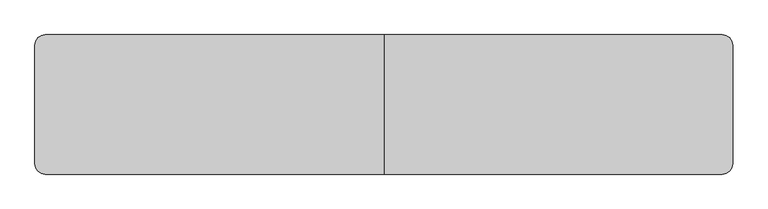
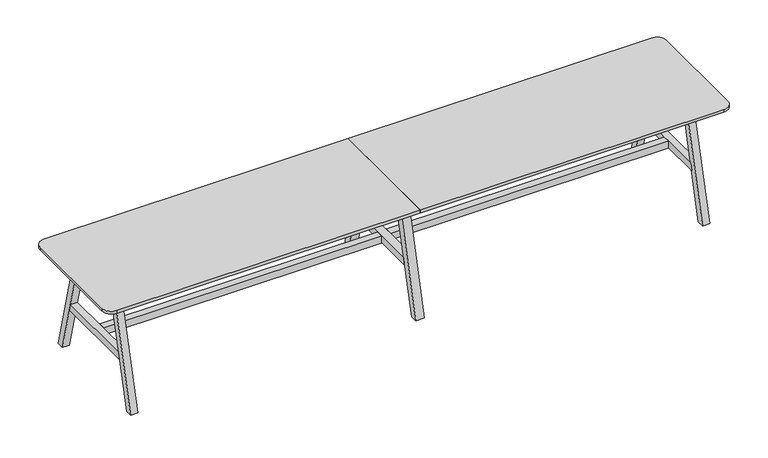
"""IFC4 building model written with IfcOpenShell, lengths in millimetres: furniture geometry, BDG_BossDesign_Tbls_AgentTables6Legs : AGE-DT-6L-4000-800-3D."""

from ifc_helpers import new_model, si_unit, point, frame, frame_2d, origin, place, context, project, spatial, polyline, circle_curve, trimmed, segment, composite_curve, outline, extrude, source, transform, mapped, element, save


def furniture_5c22946d(model_context):
    return source(origin(), model_context, "Body", "SweptSolid", [
        extrude(outline(polyline([(400.0, 0.0), (354.9999949, 0.0), (185.5, 660.0), (230.5000051, 660.0), (400.0, 0.0)])), frame((-27.5, 0.0, 0.0), z_axis=(1.0, 0.0, 0.0), x_axis=(0.0, 1.0, 0.0)), (0.0, 0.0, 1.0), 55.0),
        extrude(outline(polyline([(-400.0, 0.0), (-230.5000051, 660.0), (-185.5, 660.0), (-354.9999949, 0.0), (-400.0, 0.0)])), frame((-27.5, 0.0, 0.0), z_axis=(1.0, 0.0, 0.0), x_axis=(0.0, 1.0, 0.0)), (0.0, 0.0, 1.0), 55.0),
        extrude(outline(polyline([(277.9545427, 300.0), (-277.9545427, 300.0), (-266.3977249, 345.0), (266.3977249, 345.0), (277.9545427, 300.0)])), frame((-27.5, 0.0, 0.0), z_axis=(1.0, 0.0, 0.0), x_axis=(0.0, 1.0, 0.0)), (0.0, 0.0, 1.0), 55.0),
        extrude(outline(composite_curve([segment(polyline([(0.0, 400.0), (0.0, -400.0), (-1940.0, -400.0)]), True, "CONTINUOUS"), segment(trimmed(circle_curve(frame_2d((-1940.0, -340.0)), 60.0), [point((-1940.0, -400.0))], [point((-2000.0, -340.0))], False, "CARTESIAN"), True, "CONTINUOUS"), segment(polyline([(-2000.0, -340.0), (-2000.0, 340.0)]), True, "CONTINUOUS"), segment(trimmed(circle_curve(frame_2d((-1940.0, 340.0)), 60.0), [point((-2000.0, 340.0))], [point((-1940.0, 400.0))], False, "CARTESIAN"), True, "CONTINUOUS"), segment(polyline([(-1940.0, 400.0), (0.0, 400.0)]), True, "CONTINUOUS")], self_intersect=False)), frame((0.0, 0.0, 722.0), z_axis=(0.0, 0.0, 1.0), x_axis=(1.0, 0.0, 0.0)), (0.0, 0.0, 1.0), 18.0),
        extrude(outline(polyline([(-266.3977249, 345.0), (266.3977249, 345.0), (277.9545427, 300.0), (-277.9545427, 300.0), (-266.3977249, 345.0)])), frame((1805.0, 0.0, 0.0), z_axis=(1.0, 0.0, 0.0), x_axis=(0.0, 1.0, 0.0)), (0.0, 0.0, 1.0), 45.0),
        extrude(outline(polyline([(400.0, 0.0), (354.9999949, 0.0), (185.5, 660.0), (230.5000051, 660.0), (400.0, 0.0)])), frame((-1850.0, 0.0, 0.0), z_axis=(1.0, 0.0, 0.0), x_axis=(0.0, 1.0, 0.0)), (0.0, 0.0, 1.0), 45.0),
        extrude(outline(polyline([(-400.0, 0.0), (-230.5000051, 660.0), (-185.5, 660.0), (-354.9999949, 0.0), (-400.0, 0.0)])), frame((-1850.0, 0.0, 0.0), z_axis=(1.0, 0.0, 0.0), x_axis=(0.0, 1.0, 0.0)), (0.0, 0.0, 1.0), 45.0),
        extrude(outline(polyline([(-266.3977249, 345.0), (266.3977249, 345.0), (277.9545427, 300.0), (-277.9545427, 300.0), (-266.3977249, 345.0)])), frame((-1850.0, 0.0, 0.0), z_axis=(1.0, 0.0, 0.0), x_axis=(0.0, 1.0, 0.0)), (0.0, 0.0, 1.0), 45.0),
        extrude(outline(polyline([(-226.6006165, 634.973938), (-204.2770691, 722.0), (-179.5, 722.0), (-201.8235474, 634.973938), (-226.6006165, 634.973938)])), frame((-1805.0, 0.0, 0.0), z_axis=(1.0, 0.0, 0.0), x_axis=(0.0, 1.0, 0.0)), (0.0, 0.0, 1.0), 3610.0),
        extrude(outline(polyline([(226.6006165, 634.973938), (201.8235474, 634.973938), (179.5, 722.0), (204.2770691, 722.0), (226.6006165, 634.973938)])), frame((-1805.0, 0.0, 0.0), z_axis=(1.0, 0.0, 0.0), x_axis=(0.0, 1.0, 0.0)), (0.0, 0.0, 1.0), 3610.0),
        extrude(outline(polyline([(399.7999878, 0.0), (354.7999827, 0.0), (185.5, 660.0), (230.5000051, 660.0), (399.7999878, 0.0)])), frame((1805.0, 0.0, 0.0), z_axis=(1.0, 0.0, 0.0), x_axis=(0.0, 1.0, 0.0)), (0.0, 0.0, 1.0), 45.0),
        extrude(outline(polyline([(-399.7999878, 0.0), (-230.5000051, 660.0), (-185.5, 660.0), (-354.7999827, 0.0), (-399.7999878, 0.0)])), frame((1805.0, 0.0, 0.0), z_axis=(1.0, 0.0, 0.0), x_axis=(0.0, 1.0, 0.0)), (0.0, 0.0, 1.0), 45.0),
        extrude(outline(polyline([(-27.5, 22.5000305), (-27.5, -22.5000305), (-1805.0, -22.5000305), (-1805.0, 22.5000305), (-27.5, 22.5000305)])), frame((0.0, 0.0, 300.0), z_axis=(0.0, 0.0, 1.0), x_axis=(1.0, 0.0, 0.0)), (0.0, 0.0, 1.0), 45.0),
        extrude(outline(polyline([(27.5, -22.5000305), (27.5, 22.5000305), (1805.0, 22.5000305), (1805.0, -22.5000305), (27.5, -22.5000305)])), frame((0.0, 0.0, 300.0), z_axis=(0.0, 0.0, 1.0), x_axis=(1.0, 0.0, 0.0)), (0.0, 0.0, 1.0), 45.0),
        extrude(outline(composite_curve([segment(trimmed(circle_curve(frame_2d((1940.0, 340.0)), 60.0), [point((1940.0, 400.0))], [point((2000.0, 340.0))], False, "CARTESIAN"), True, "CONTINUOUS"), segment(polyline([(2000.0, 340.0), (2000.0, -340.0)]), True, "CONTINUOUS"), segment(trimmed(circle_curve(frame_2d((1940.0, -340.0)), 60.0), [point((2000.0, -340.0))], [point((1940.0, -400.0))], False, "CARTESIAN"), True, "CONTINUOUS"), segment(polyline([(1940.0, -400.0), (0.0, -400.0), (0.0, 400.0), (1940.0, 400.0)]), True, "CONTINUOUS")], self_intersect=False)), frame((0.0, 0.0, 722.0), z_axis=(0.0, 0.0, 1.0), x_axis=(1.0, 0.0, 0.0)), (0.0, 0.0, 1.0), 18.0),
    ])


if __name__ == "__main__":
    model = new_model("IFC4")
    model_context = context("Model", 3, world=origin())
    ifc_project = project(units=[si_unit("LENGTHUNIT", "METRE", prefix="MILLI")], contexts=[model_context])
    site = spatial("IfcSite", under=ifc_project)
    building = spatial("IfcBuilding", under=site)
    placement = place(None, origin())
    furniture_shape = furniture_5c22946d(model_context)
    element("IfcFurniture", 1, ObjectType="BDG_BossDesign_Tbls_AgentTables6Legs : AGE-DT-6L-4000-800-3D", at=placement, inside=building, context=model_context, shape_type="MappedRepresentation", body=[
        mapped(furniture_shape, transform((0.0, 0.0, 0.0), x_axis=(1.0, 0.0, 0.0), y_axis=(0.0, 1.0, 0.0), z_axis=(0.0, 0.0, 1.0))),
    ])
    save(model, "model.ifc")
